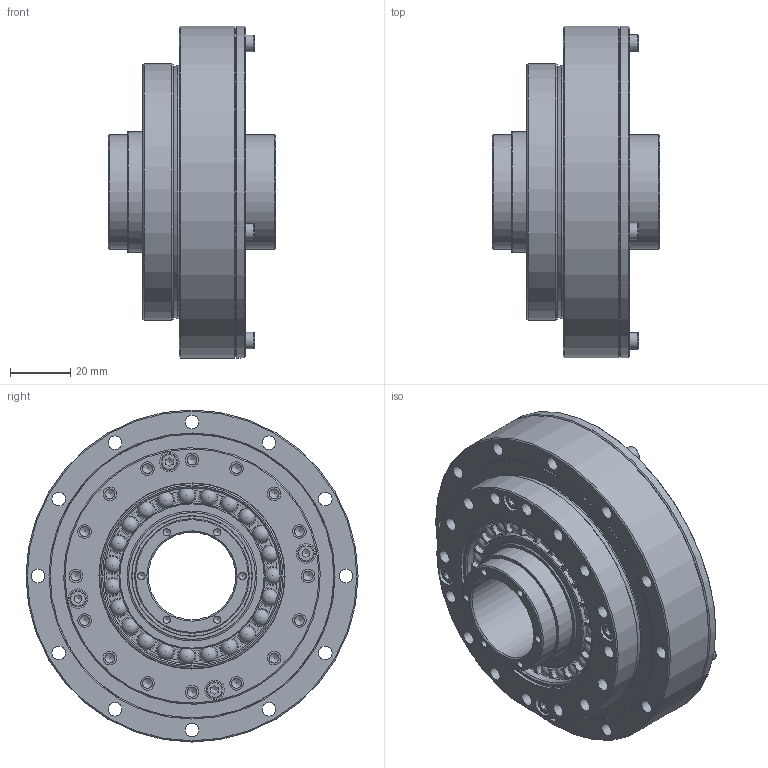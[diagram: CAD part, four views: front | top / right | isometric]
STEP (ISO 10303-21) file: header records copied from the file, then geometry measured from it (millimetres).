
FILE_DESCRIPTION(/* description */ (''),/* implementation_level */ '2;1');
FILE_NAME(/* name */ '\\Hiwin.tw\dfs\TB00F\研發課二組\\X2\6A5F5BC67D1A\X0\\97.同仁共享區 (機密級)\H11\\X2\6B236021\X0\\2023專案追蹤\2.型錄\\X2\6A21578B\X0\\官網3D檔(NEW)\DGH-PH\DGH-25-XX-PH.stp',/* time_stamp */ '2024-08-27T09:19:52+08:00',/* author */ ('hienya'),/* organization */ (''),/* preprocessor_version */ 'ST-DEVELOPER v15.2',/* originating_system */ 'Autodesk Inventor 2014',/* authorisation */ '');
FILE_SCHEMA (('AUTOMOTIVE_DESIGN { 1 0 10303 214 3 1 1 }'));
Length unit declared in the file: centimetre
Products named in the file (1): DGH-25-XX-PH
Bounding box: 55.5 x 110 x 110 mm (x, y, z)
Volume: 204682.1 mm3; surface area: 55480.5 mm2
Topology: 1 solids, 1 shells, 454 faces, 1111 edges, 702 vertices
Faces by surface type: cylinder 179, plane 139, torus 59, cone 54, sphere 23
Full cylindrical faces by diameter (mm): 2.459 x12, 3.242 x16, 4.5 x28, 5.5 x8, 6.5 x4, 29 x2, 29.5 x1, 38 x2, 40 x2, 42 x2, 48.385 x1, 58.32 x1, 61.34 x1, 61.355 x1, 84 x1, 85 x1, 88 x1, 94 x1, 110 x2
Entity records: 11557 total; most frequent: DIRECTION 2238, CARTESIAN_POINT 1931, ORIENTED_EDGE 1704, AXIS2_PLACEMENT_3D 1025, EDGE_CURVE 806, EDGE_LOOP 700, VERTEX_POINT 574, CIRCLE 570
